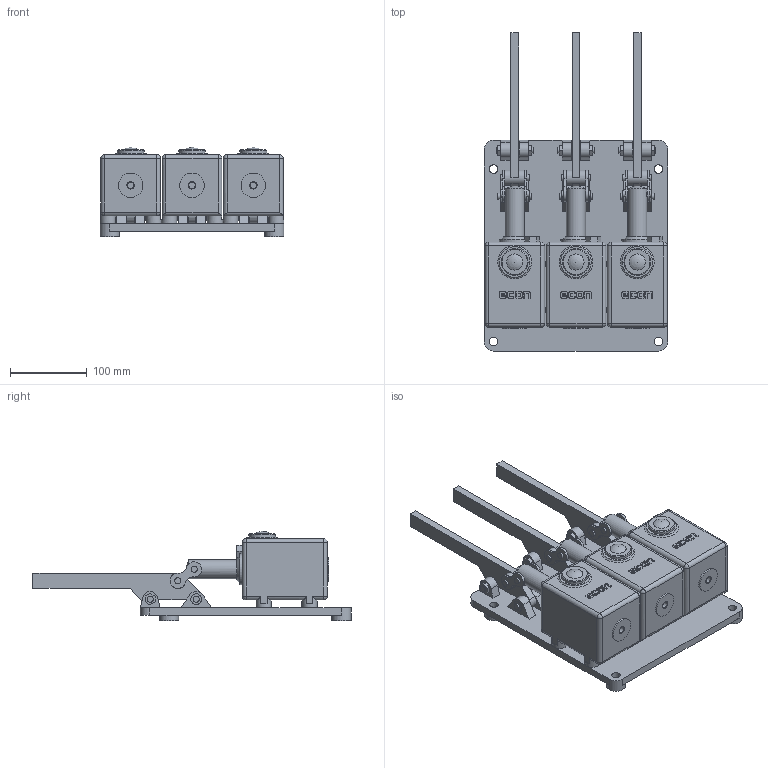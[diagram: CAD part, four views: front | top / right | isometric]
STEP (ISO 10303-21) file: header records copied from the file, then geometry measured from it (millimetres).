
FILE_DESCRIPTION(/* description */ (''),/* implementation_level */ '2;1');
FILE_NAME(/* name */ '108.stp',/* time_stamp */ '2024-11-12T12:34:06+01:00',/* author */ ('roger.thijssen'),/* organization */ (''),/* preprocessor_version */ 'ST-DEVELOPER v19.2',/* originating_system */ 'Autodesk Inventor 2024',/* authorisation */ '');
FILE_SCHEMA (('AUTOMOTIVE_DESIGN { 1 0 10303 214 3 1 1 }'));
Length unit declared in the file: millimetre
Products named in the file (1): 108
Bounding box: 240 x 415.04 x 116.5 mm (x, y, z)
Volume: 3185018.2 mm3; surface area: 378924.7 mm2
Topology: 1 solids, 1 shells, 632 faces, 1563 edges, 982 vertices
Faces by surface type: plane 373, cylinder 218, sphere 23, cone 12, torus 3, bspline 3
Full cylindrical faces by diameter (mm): 8 x36, 8.566 x3, 11 x4, 14 x6, 20 x7, 25 x7, 32 x3, 35 x3, 40 x3
Entity records: 19732 total; most frequent: CARTESIAN_POINT 3696, DIRECTION 3261, ORIENTED_EDGE 3080, EDGE_CURVE 1540, AXIS2_PLACEMENT_3D 1129, LINE 1003, VECTOR 1003, VERTEX_POINT 982
